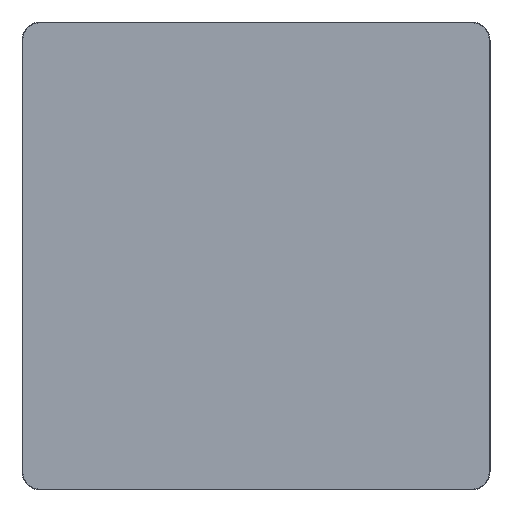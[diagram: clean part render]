
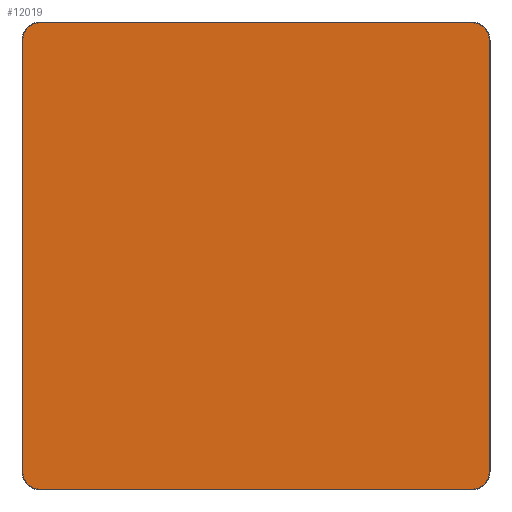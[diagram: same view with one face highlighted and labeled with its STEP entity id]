
A CAD part, top view. The second image highlights one B-rep face of the part: STEP entity #12019.
In plain terms, the highlighted planar face has unit normal (0, 0, 1).
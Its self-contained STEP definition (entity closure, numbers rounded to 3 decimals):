
#11944=CARTESIAN_POINT('',(0.,0.,20.));
#11945=DIRECTION('',(1.,0.,0.));
#11946=DIRECTION('',(0.,0.,1.));
#11947=AXIS2_PLACEMENT_3D('',#11944,#11946,#11945);
#11948=PLANE('',#11947);
#11949=CARTESIAN_POINT('',(-415.,-448.5,20.));
#11950=VERTEX_POINT('',#11949);
#11951=CARTESIAN_POINT('',(415.,-448.5,20.));
#11952=VERTEX_POINT('',#11951);
#11953=CARTESIAN_POINT('',(-415.,-448.5,20.));
#11954=DIRECTION('',(1.,0.,0.));
#11955=VECTOR('',#11954,830.);
#11956=LINE('',#11953,#11955);
#11957=EDGE_CURVE('',#11950,#11952,#11956,.T.);
#11958=ORIENTED_EDGE('E105',*,*,#11957,.T.);
#11959=CARTESIAN_POINT('',(448.5,-415.,20.));
#11960=VERTEX_POINT('',#11959);
#11961=CARTESIAN_POINT('',(415.,-415.,20.));
#11962=DIRECTION('',(0.,-1.,0.));
#11963=DIRECTION('',(0.,-0.,1.));
#11964=AXIS2_PLACEMENT_3D('',#11961,#11963,#11962);
#11965=CIRCLE('',#11964,33.5);
#11966=EDGE_CURVE('',#11952,#11960,#11965,.T.);
#11967=ORIENTED_EDGE('E107',*,*,#11966,.T.);
#11968=CARTESIAN_POINT('',(448.5,415.,20.));
#11969=VERTEX_POINT('',#11968);
#11970=CARTESIAN_POINT('',(448.5,-415.,20.));
#11971=DIRECTION('',(0.,1.,0.));
#11972=VECTOR('',#11971,830.);
#11973=LINE('',#11970,#11972);
#11974=EDGE_CURVE('',#11960,#11969,#11973,.T.);
#11975=ORIENTED_EDGE('E109',*,*,#11974,.T.);
#11976=CARTESIAN_POINT('',(415.,448.5,20.));
#11977=VERTEX_POINT('',#11976);
#11978=CARTESIAN_POINT('',(415.,415.,20.));
#11979=DIRECTION('',(1.,0.,0.));
#11980=DIRECTION('',(0.,0.,1.));
#11981=AXIS2_PLACEMENT_3D('',#11978,#11980,#11979);
#11982=CIRCLE('',#11981,33.5);
#11983=EDGE_CURVE('',#11969,#11977,#11982,.T.);
#11984=ORIENTED_EDGE('E111',*,*,#11983,.T.);
#11985=CARTESIAN_POINT('',(-415.,448.5,20.));
#11986=VERTEX_POINT('',#11985);
#11987=CARTESIAN_POINT('',(415.,448.5,20.));
#11988=DIRECTION('',(-1.,0.,0.));
#11989=VECTOR('',#11988,830.);
#11990=LINE('',#11987,#11989);
#11991=EDGE_CURVE('',#11977,#11986,#11990,.T.);
#11992=ORIENTED_EDGE('E113',*,*,#11991,.T.);
#11993=CARTESIAN_POINT('',(-448.5,415.,20.));
#11994=VERTEX_POINT('',#11993);
#11995=CARTESIAN_POINT('',(-415.,415.,20.));
#11996=DIRECTION('',(0.,1.,0.));
#11997=DIRECTION('',(0.,0.,1.));
#11998=AXIS2_PLACEMENT_3D('',#11995,#11997,#11996);
#11999=CIRCLE('',#11998,33.5);
#12000=EDGE_CURVE('',#11986,#11994,#11999,.T.);
#12001=ORIENTED_EDGE('E115',*,*,#12000,.T.);
#12002=CARTESIAN_POINT('',(-448.5,-415.,20.));
#12003=VERTEX_POINT('',#12002);
#12004=CARTESIAN_POINT('',(-448.5,415.,20.));
#12005=DIRECTION('',(0.,-1.,0.));
#12006=VECTOR('',#12005,830.);
#12007=LINE('',#12004,#12006);
#12008=EDGE_CURVE('',#11994,#12003,#12007,.T.);
#12009=ORIENTED_EDGE('E117',*,*,#12008,.T.);
#12010=CARTESIAN_POINT('',(-415.,-415.,20.));
#12011=DIRECTION('',(-1.,0.,0.));
#12012=DIRECTION('',(-0.,0.,1.));
#12013=AXIS2_PLACEMENT_3D('',#12010,#12012,#12011);
#12014=CIRCLE('',#12013,33.5);
#12015=EDGE_CURVE('',#12003,#11950,#12014,.T.);
#12016=ORIENTED_EDGE('E119',*,*,#12015,.T.);
#12017=EDGE_LOOP('',(#11958,#11967,#11975,#11984,#11992,#12001,#12009,#12016));
#12018=FACE_OUTER_BOUND('',#12017,.T.);
#12019=ADVANCED_FACE('F2',(#12018),#11948,.T.);
